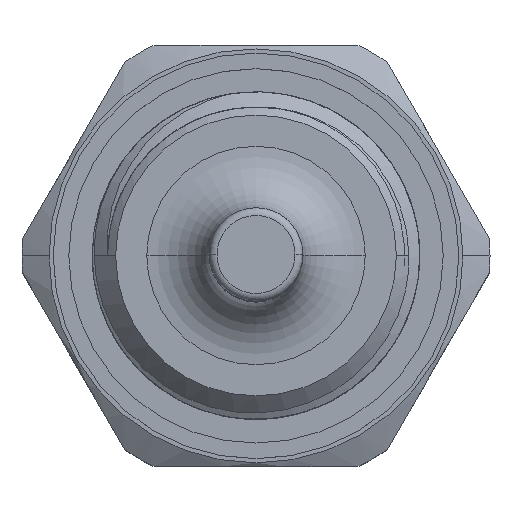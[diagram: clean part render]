
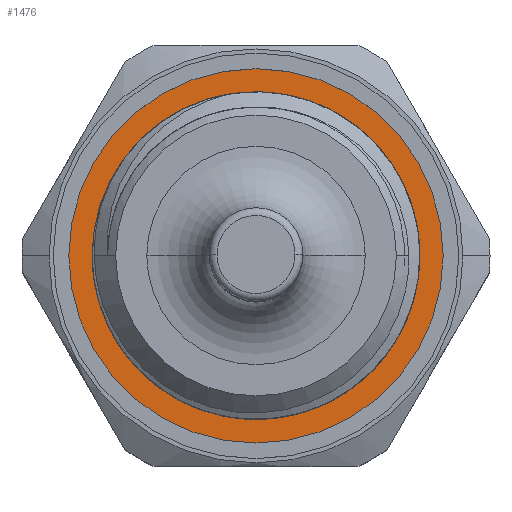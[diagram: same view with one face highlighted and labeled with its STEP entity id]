
A CAD part, top view. The second image highlights one B-rep face of the part: STEP entity #1476.
In plain terms, the highlighted planar face has unit normal (0, 0, 1).
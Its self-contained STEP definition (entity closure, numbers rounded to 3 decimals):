
#6 = DIRECTION ( 'NONE',  ( 1., 0., 0. ) ) ;
#139 = FACE_OUTER_BOUND ( 'NONE', #3265, .T. ) ;
#231 = VERTEX_POINT ( 'NONE', #2414 ) ;
#420 = DIRECTION ( 'NONE',  ( 1., 0., 0. ) ) ;
#663 = CIRCLE ( 'NONE', #2606, 12. ) ;
#1264 = EDGE_CURVE ( 'NONE', #231, #4799, #8232, .T. ) ;
#1337 = CARTESIAN_POINT ( 'NONE',  ( 0., 0., -15. ) ) ;
#1476 = ADVANCED_FACE ( 'NONE', ( #7934, #139 ), #5103, .T. ) ;
#1948 = CIRCLE ( 'NONE', #2548, 12. ) ;
#2042 = DIRECTION ( 'NONE',  ( 1., 0., 0. ) ) ;
#2414 = CARTESIAN_POINT ( 'NONE',  ( -9.25, 0., -15. ) ) ;
#2548 = AXIS2_PLACEMENT_3D ( 'NONE', #4973, #4326, #6 ) ;
#2606 = AXIS2_PLACEMENT_3D ( 'NONE', #6152, #7528, #420 ) ;
#3265 = EDGE_LOOP ( 'NONE', ( #8315, #3866 ) ) ;
#3313 = VERTEX_POINT ( 'NONE', #3513 ) ;
#3513 = CARTESIAN_POINT ( 'NONE',  ( -12., 0., -15. ) ) ;
#3866 = ORIENTED_EDGE ( 'NONE', *, *, #8886, .T. ) ;
#4318 = CARTESIAN_POINT ( 'NONE',  ( 0., 0., -15. ) ) ;
#4326 = DIRECTION ( 'NONE',  ( 0., 0., 1. ) ) ;
#4418 = ORIENTED_EDGE ( 'NONE', *, *, #1264, .F. ) ;
#4799 = VERTEX_POINT ( 'NONE', #8560 ) ;
#4971 = AXIS2_PLACEMENT_3D ( 'NONE', #1337, #8989, #2042 ) ;
#4973 = CARTESIAN_POINT ( 'NONE',  ( 0., 0., -15. ) ) ;
#5027 = AXIS2_PLACEMENT_3D ( 'NONE', #4318, #5842, #5792 ) ;
#5103 = PLANE ( 'NONE',  #5027 ) ;
#5112 = VERTEX_POINT ( 'NONE', #6345 ) ;
#5158 = EDGE_CURVE ( 'NONE', #5112, #3313, #1948, .T. ) ;
#5386 = CARTESIAN_POINT ( 'NONE',  ( 0., 0., -15. ) ) ;
#5792 = DIRECTION ( 'NONE',  ( 1., 0., 0. ) ) ;
#5842 = DIRECTION ( 'NONE',  ( 0., 0., 1. ) ) ;
#6152 = CARTESIAN_POINT ( 'NONE',  ( 0., 0., -15. ) ) ;
#6187 = AXIS2_PLACEMENT_3D ( 'NONE', #5386, #6846, #8040 ) ;
#6345 = CARTESIAN_POINT ( 'NONE',  ( 12., 0., -15. ) ) ;
#6846 = DIRECTION ( 'NONE',  ( 0., 0., 1. ) ) ;
#6901 = EDGE_CURVE ( 'NONE', #4799, #231, #8918, .T. ) ;
#7300 = EDGE_LOOP ( 'NONE', ( #4418, #7666 ) ) ;
#7528 = DIRECTION ( 'NONE',  ( 0., 0., 1. ) ) ;
#7666 = ORIENTED_EDGE ( 'NONE', *, *, #6901, .F. ) ;
#7934 = FACE_BOUND ( 'NONE', #7300, .T. ) ;
#8040 = DIRECTION ( 'NONE',  ( 1., 0., 0. ) ) ;
#8232 = CIRCLE ( 'NONE', #6187, 9.25 ) ;
#8315 = ORIENTED_EDGE ( 'NONE', *, *, #5158, .T. ) ;
#8560 = CARTESIAN_POINT ( 'NONE',  ( 9.25, 0., -15. ) ) ;
#8886 = EDGE_CURVE ( 'NONE', #3313, #5112, #663, .T. ) ;
#8918 = CIRCLE ( 'NONE', #4971, 9.25 ) ;
#8989 = DIRECTION ( 'NONE',  ( 0., 0., 1. ) ) ;
